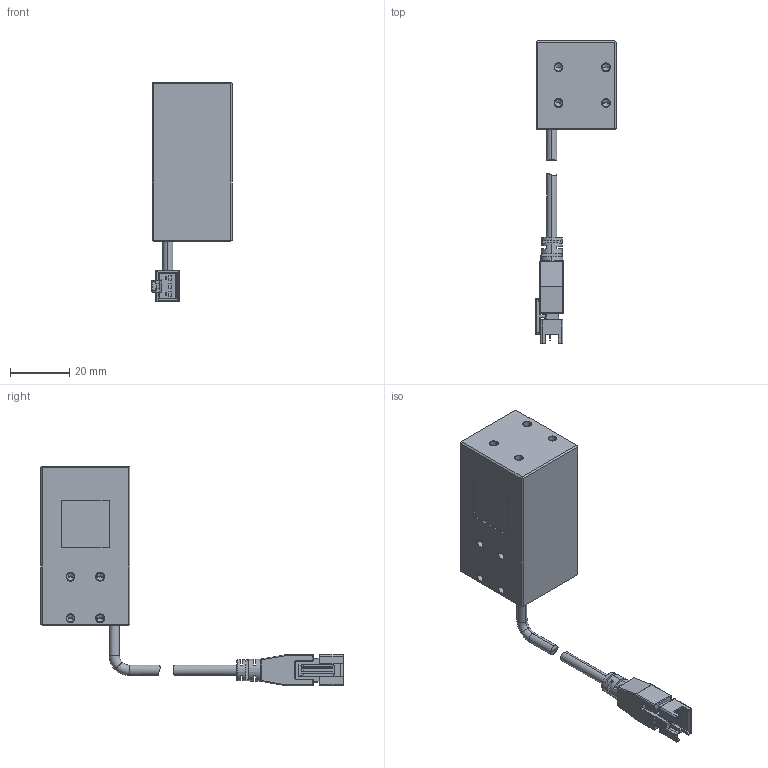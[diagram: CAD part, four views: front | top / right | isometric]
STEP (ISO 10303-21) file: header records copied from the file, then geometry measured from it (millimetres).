
FILE_DESCRIPTION((''),'2;1');
FILE_NAME('JIANYI_ASM','2014-06-11T',('admin'),(''),'PRO/ENGINEER BY PARAMETRIC TECHNOLOGY CORPORATION, 2011220','PRO/ENGINEER BY PARAMETRIC TECHNOLOGY CORPORATION, 2011220','');
FILE_SCHEMA(('CONFIG_CONTROL_DESIGN'));
Length unit declared in the file: millimetre
Products named in the file (5): JIANYI; LINE_TOU; BODY_12; ASSY_ASM; JIANYI_ASM
Assembly tree (4 placements, depth 3):
  JIANYI_ASM
    JIANYI
    ASSY_ASM
      LINE_TOU
      BODY_12
Bounding box: 27.2 x 101.85 x 73.95 mm (x, y, z)
Volume: 41922.8 mm3; surface area: 11650.5 mm2
Topology: 3 solids, 11 shells, 309 faces, 780 edges, 489 vertices
Faces by surface type: plane 164, cylinder 99, cone 18, torus 12, bspline 8, sphere 8
Entity records: 9449 total; most frequent: CARTESIAN_POINT 1882, DIRECTION 1602, ORIENTED_EDGE 1496, EDGE_CURVE 764, AXIS2_PLACEMENT_3D 558, VERTEX_POINT 489, VECTOR 486, LINE 486
